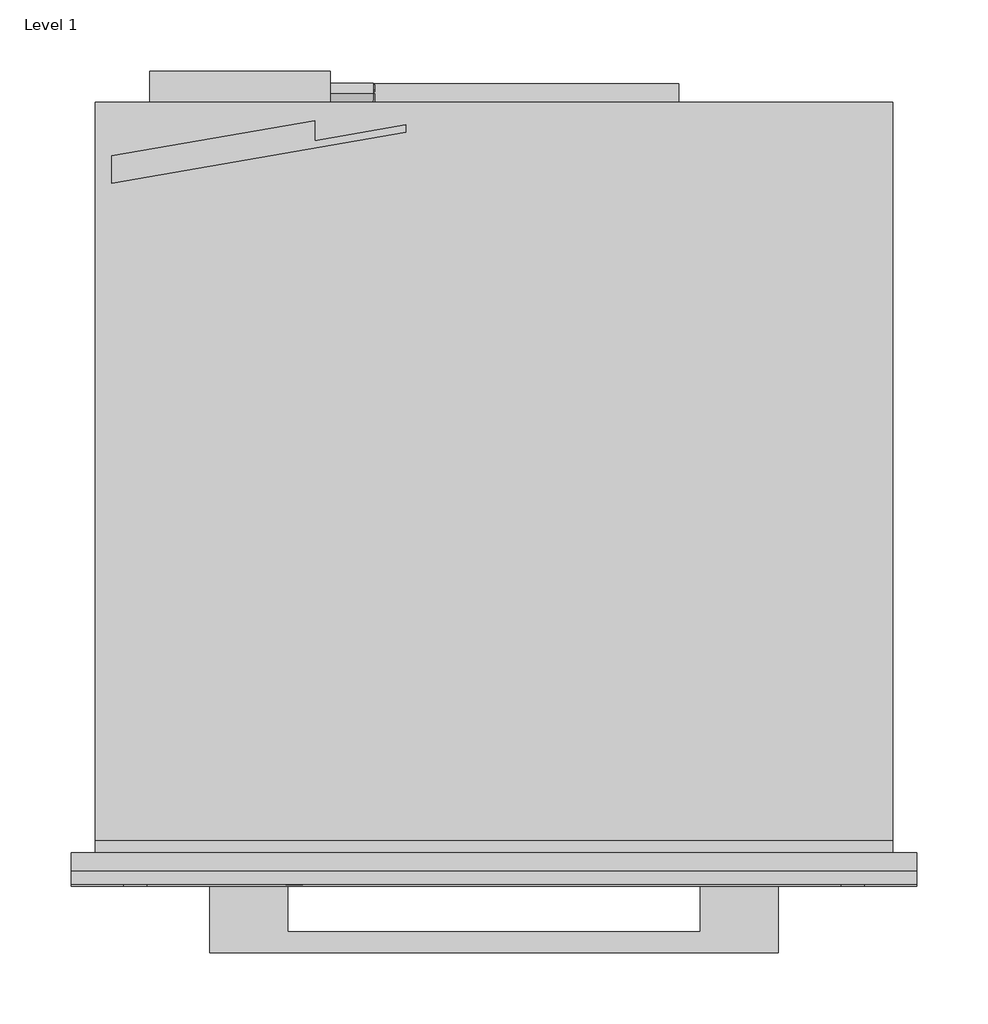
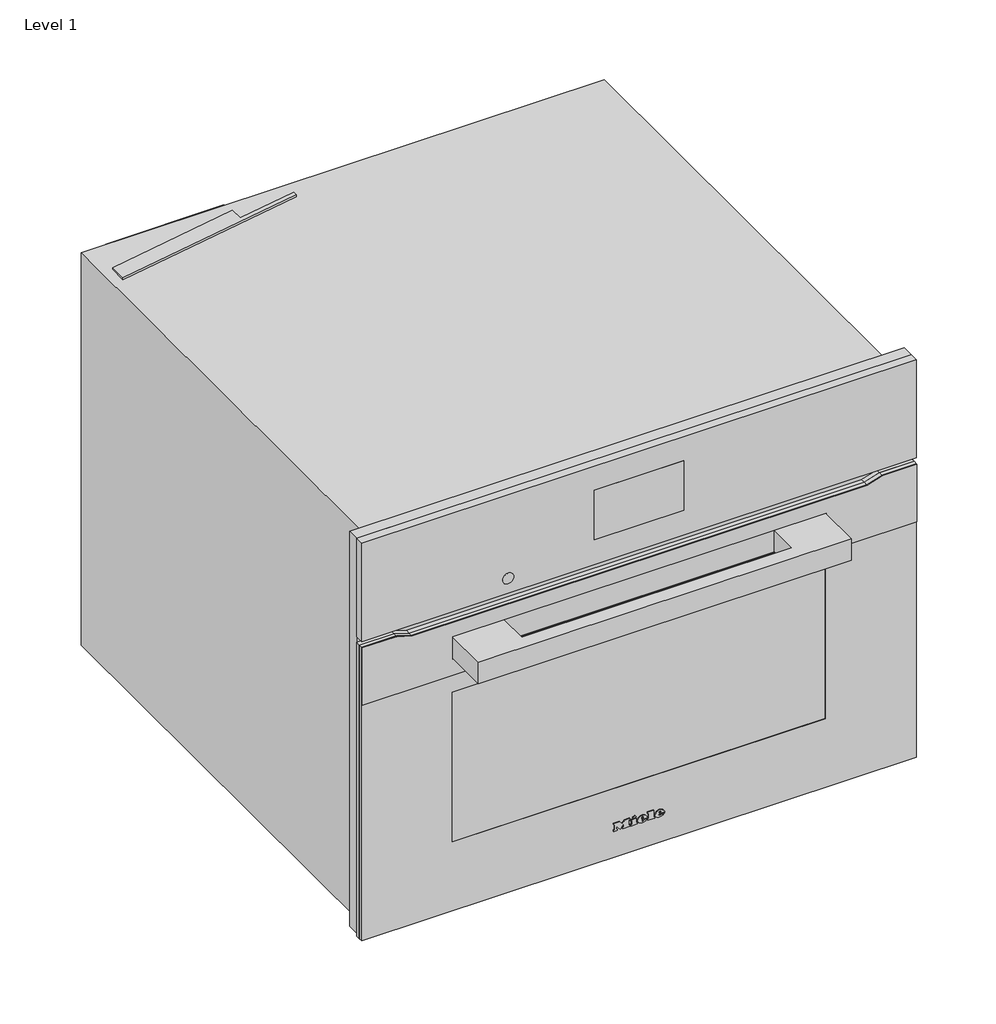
# One storey: 1 proxy.
"""IFC4 building model written with IfcOpenShell, lengths in millimetres."""

import ifcopenshell
import ifcopenshell.guid

model = None  # the IFC model being written
_history = None  # IfcOwnerHistory: only IFC2X3 demands one
_inside = {}  # id of a spatial element -> (the spatial element, [elements in it])
_under = {}  # id of a project, library or spatial element -> (it, [spatial elements below it])
_declared = {}  # id of a project -> (the project, [libraries it declares])
_typed = {}  # id of a type object -> (the type object, [elements of that type])
_made_of = {}  # id of a material, layer set ... -> (it, [elements and type objects made of it])


def new_model(schema):
    """Start an empty IFC model of exactly this schema.

    Asked for "IFC4X3", IfcOpenShell would pick the latest addendum, in which some entities
    have other attributes; the version numbers below select the first issue.
    IFC2X3 requires an IfcOwnerHistory on every rooted entity: one is made here for all.
    """
    global model, _history
    if schema == "IFC4X3":
        model = ifcopenshell.file(schema_version=(4, 3, 0, 0))
    else:
        model = ifcopenshell.file(schema=schema)
    _inside.clear()
    _under.clear()
    _declared.clear()
    _typed.clear()
    _made_of.clear()
    _history = None
    if model.schema == "IFC2X3":
        org = make("IfcOrganization", Name="unknown")
        user = make(
            "IfcPersonAndOrganization",
            ThePerson=make("IfcPerson", FamilyName="unknown"),
            TheOrganization=org,
        )
        app = make(
            "IfcApplication",
            ApplicationDeveloper=org,
            Version="unknown",
            ApplicationFullName="unknown",
            ApplicationIdentifier="unknown",
        )
        _history = make(
            "IfcOwnerHistory",
            OwningUser=user,
            OwningApplication=app,
            ChangeAction="ADDED",
            CreationDate=0,
        )
    return model


def make(cls, **values):
    """One entity of the class cls with the attributes given. An attribute that is None is left unset."""
    return model.create_entity(
        cls, **{name: value for name, value in values.items() if value is not None}
    )


def rooted(cls, **values):
    """An entity with a GlobalId (a new one), such as an element, a storey or a relation."""
    return make(cls, GlobalId=ifcopenshell.guid.new(), OwnerHistory=_history, **values)


def si_unit(unit_type, name, prefix=None):
    """IfcSIUnit, for example si_unit("LENGTHUNIT", "METRE", prefix="MILLI")."""
    return make("IfcSIUnit", UnitType=unit_type, Prefix=prefix, Name=name)


def assignment(units):
    """IfcUnitAssignment: the units of a project."""
    return None if units is None else make("IfcUnitAssignment", Units=units)


def point(xyz):
    """IfcCartesianPoint."""
    return None if xyz is None else make("IfcCartesianPoint", Coordinates=xyz)


def direction(xyz):
    """IfcDirection."""
    return None if xyz is None else make("IfcDirection", DirectionRatios=xyz)


def frame(location, z_axis=None, x_axis=None):
    """IfcAxis2Placement3D, a coordinate frame: its origin and axes. An axis left out is left unset."""
    return make(
        "IfcAxis2Placement3D",
        Location=point(location),
        Axis=direction(z_axis),
        RefDirection=direction(x_axis),
    )


def frame_2d(location, x_axis=None):
    """IfcAxis2Placement2D, a coordinate frame in the plane: its origin and x axis."""
    return make(
        "IfcAxis2Placement2D", Location=point(location), RefDirection=direction(x_axis)
    )


def origin():
    """The frame at (0, 0, 0) with its axes left unset."""
    return frame((0.0, 0.0, 0.0))


def place(relative_to, where):
    """IfcLocalPlacement: puts the frame where relative to a parent placement (None: the world)."""
    return make(
        "IfcLocalPlacement", PlacementRelTo=relative_to, RelativePlacement=where
    )


def context(
    kind, dimensions, precision=None, world=None, true_north=None, identifier=None
):
    """IfcGeometricRepresentationContext, for example the 3D "Model" context."""
    return make(
        "IfcGeometricRepresentationContext",
        ContextIdentifier=identifier,
        ContextType=kind,
        CoordinateSpaceDimension=dimensions,
        Precision=precision,
        WorldCoordinateSystem=world,
        TrueNorth=true_north,
    )


def project(units=None, contexts=None):
    """IfcProject with its units and contexts."""
    return rooted(
        "IfcProject",
        Name="project",
        RepresentationContexts=contexts,
        UnitsInContext=assignment(units),
    )


def spatial(cls, under=None, at=None, **own):
    """A site, building, storey or space (cls), placed at a placement, below another one or the project."""
    s = rooted(cls, ObjectPlacement=at, **own)
    if under is not None:
        _under.setdefault(under.id(), (under, []))[1].append(s)
    return s


def polyline(points):
    """IfcPolyline through the points."""
    return make("IfcPolyline", Points=[point(p) for p in points])


def circle_curve(where, radius):
    """IfcCircle in the frame where."""
    return make("IfcCircle", Position=where, Radius=radius)


def ellipse_curve(where, semi_axis1, semi_axis2):
    """IfcEllipse in the frame where."""
    return make(
        "IfcEllipse", Position=where, SemiAxis1=semi_axis1, SemiAxis2=semi_axis2
    )


def trimmed(basis, trim1, trim2, sense, master):
    """IfcTrimmedCurve: the piece of a basis curve between two trims."""
    return make(
        "IfcTrimmedCurve",
        BasisCurve=basis,
        Trim1=trim1,
        Trim2=trim2,
        SenseAgreement=sense,
        MasterRepresentation=master,
    )


def segment(curve, same_sense, transition):
    """IfcCompositeCurveSegment."""
    return make(
        "IfcCompositeCurveSegment",
        Transition=transition,
        SameSense=same_sense,
        ParentCurve=curve,
    )


def composite_curve(segments, self_intersect=None):
    """IfcCompositeCurve: segments joined end to end."""
    return make("IfcCompositeCurve", Segments=segments, SelfIntersect=self_intersect)


def outline(outer, holes=None, kind="AREA"):
    """IfcArbitraryClosedProfileDef: a profile drawn as a closed curve; with holes, ...WithVoids."""
    if holes is None:
        return make("IfcArbitraryClosedProfileDef", ProfileType=kind, OuterCurve=outer)
    return make(
        "IfcArbitraryProfileDefWithVoids",
        ProfileType=kind,
        OuterCurve=outer,
        InnerCurves=holes,
    )


def extrude(swept, where, along, depth):
    """IfcExtrudedAreaSolid: the profile swept, set in the frame where, extruded along a direction by depth."""
    return make(
        "IfcExtrudedAreaSolid",
        SweptArea=swept,
        Position=where,
        ExtrudedDirection=direction(along),
        Depth=depth,
    )


def faces_of(points, faces, orient=None, outer=None):
    """IfcFace entities. A face is a list of loops; a loop is a list of indices into points, from 0.

    orient and outer hold one flag for each loop. By default every Orientation is true, the
    first loop of a face is its IfcFaceOuterBound and the others are IfcFaceBound.
    """
    made = []
    for i, loops in enumerate(faces):
        bounds = []
        for j, loop in enumerate(loops):
            is_outer = j == 0 if outer is None else outer[i][j]
            bounds.append(
                make(
                    "IfcFaceOuterBound" if is_outer else "IfcFaceBound",
                    Bound=make("IfcPolyLoop", Polygon=[points[k] for k in loop]),
                    Orientation=True if orient is None else orient[i][j],
                )
            )
        made.append(make("IfcFace", Bounds=bounds))
    return made


def faceted_brep(points, faces, orient=None, outer=None, voids=None):
    """IfcFacetedBrep: a solid bounded by flat faces; with voids (closed shells), ...WithVoids."""
    shared = [point(p) for p in points]
    hull = make("IfcClosedShell", CfsFaces=faces_of(shared, faces, orient, outer))
    if voids is None:
        return make("IfcFacetedBrep", Outer=hull)
    return make(
        "IfcFacetedBrepWithVoids",
        Outer=hull,
        Voids=[
            make(cls, CfsFaces=faces_of(shared, fs, o, b)) for cls, fs, o, b in voids
        ],
    )


def shape(context_of_items, identifier, shape_type, items):
    """IfcShapeRepresentation: the items that make up one representation, for example the "Body"."""
    return make(
        "IfcShapeRepresentation",
        ContextOfItems=context_of_items,
        RepresentationIdentifier=identifier,
        RepresentationType=shape_type,
        Items=items,
    )


def source(mapping_origin, context_of_items, identifier, shape_type, items):
    """IfcRepresentationMap: a shape defined once, which mapped items show again and again."""
    return make(
        "IfcRepresentationMap",
        MappingOrigin=mapping_origin,
        MappedRepresentation=shape(context_of_items, identifier, shape_type, items),
    )


def transform(
    local_origin,
    x_axis=None,
    y_axis=None,
    z_axis=None,
    scale=None,
    scale2=None,
    scale3=None,
    uniform=True,
):
    """IfcCartesianTransformationOperator3D, or its non-uniform kind. x_axis, y_axis, z_axis: its Axis1, 2, 3."""
    if uniform:
        return make(
            "IfcCartesianTransformationOperator3D",
            Axis1=direction(x_axis),
            Axis2=direction(y_axis),
            LocalOrigin=point(local_origin),
            Scale=scale,
            Axis3=direction(z_axis),
        )
    return make(
        "IfcCartesianTransformationOperator3DnonUniform",
        Axis1=direction(x_axis),
        Axis2=direction(y_axis),
        LocalOrigin=point(local_origin),
        Scale=scale,
        Axis3=direction(z_axis),
        Scale2=scale2,
        Scale3=scale3,
    )


def mapped(mapping_source, mapping_target):
    """IfcMappedItem: shows the shape of a source again, moved by a transform."""
    return make(
        "IfcMappedItem", MappingSource=mapping_source, MappingTarget=mapping_target
    )


def made_of(thing, what):
    """Note that an element or type object is made of a material, layer set ...; save() writes the relation."""
    if what is not None:
        _made_of.setdefault(what.id(), (what, []))[1].append(thing)
    return thing


def element(
    cls,
    number,
    at=None,
    inside=None,
    cuts=None,
    type_object=None,
    material=None,
    context=None,
    identifier="Body",
    shape_type=None,
    held_by="IfcProductDefinitionShape",
    body=None,
    shapes=None,
    **own,
):
    """One element of the class cls, such as IfcWall. Its Tag is "e" and its number.

    at: its placement. inside: the storey or other place that contains it. cuts: it is an
    opening in that element (IfcRelVoidsElement). A single representation is given by context,
    identifier, shape_type and body (its items); several are given by shapes. held_by: the class
    of the entity that holds the representations. save() writes the other relations.
    """
    e = rooted(cls, Tag="e%d" % number, ObjectPlacement=at, **own)
    if body is not None:
        shapes = [shape(context, identifier, shape_type, body)]
    if shapes is not None:
        e.Representation = make(held_by, Representations=shapes)
    if inside is not None:
        _inside.setdefault(inside.id(), (inside, []))[1].append(e)
    if cuts is not None:
        rooted(
            "IfcRelVoidsElement", RelatingBuildingElement=cuts, RelatedOpeningElement=e
        )
    if type_object is not None:
        _typed.setdefault(type_object.id(), (type_object, []))[1].append(e)
    return made_of(e, material)


def aggregate(whole, parts):
    """IfcRelAggregates: a whole, such as a stair, and the parts it consists of."""
    return rooted("IfcRelAggregates", RelatingObject=whole, RelatedObjects=parts)


def save(model, path):
    """Write the relations noted so far, then the file.

    IfcRelAggregates (storeys below a building ...), IfcRelContainedInSpatialStructure (elements
    in a storey), IfcRelDefinesByType, IfcRelAssociatesMaterial and IfcRelDeclares: one each for
    every whole, place, type object, material and project.
    """
    for whole, parts in _under.values():
        aggregate(whole, parts)
    for where, things in _inside.values():
        rooted(
            "IfcRelContainedInSpatialStructure",
            RelatedElements=things,
            RelatingStructure=where,
        )
    for kind, things in _typed.values():
        rooted("IfcRelDefinesByType", RelatedObjects=things, RelatingType=kind)
    for what, things in _made_of.values():
        rooted("IfcRelAssociatesMaterial", RelatedObjects=things, RelatingMaterial=what)
    for by, libraries in _declared.values():
        rooted("IfcRelDeclares", RelatingContext=by, RelatedDefinitions=libraries)
    model.write(path)


def plane_surface(at):
    """IfcPlane: the flat surface through the origin of the frame at, square to its z axis."""
    return make("IfcPlane", Position=at)


def cylinder_surface(at, radius):
    """IfcCylindricalSurface: all points at the distance radius from the z axis of the frame at."""
    return make("IfcCylindricalSurface", Position=at, Radius=radius)


def revolved_surface(curve, axis_point, axis_direction):
    """IfcSurfaceOfRevolution: the curve turned about the line through axis_point along axis_direction."""
    return make(
        "IfcSurfaceOfRevolution",
        SweptCurve=make("IfcArbitraryOpenProfileDef", ProfileType="CURVE", Curve=curve),
        AxisPosition=make("IfcAxis1Placement", Location=point(axis_point), Axis=direction(axis_direction)),
    )


def extruded_surface(curve, direction_of_extrusion, depth):
    """IfcSurfaceOfLinearExtrusion: the curve pushed along a direction by depth."""
    return make(
        "IfcSurfaceOfLinearExtrusion",
        SweptCurve=make("IfcArbitraryOpenProfileDef", ProfileType="CURVE", Curve=curve),
        ExtrudedDirection=direction(direction_of_extrusion),
        Depth=depth,
    )


def advanced_brep(points, edges, surfaces, faces):
    """IfcAdvancedBrep: a solid bounded by faces that lie on surfaces and meet in shared edges.

    An edge is (start, end): straight between two places in points (the first is 0);
    or (start, end, curve); or (start, end, curve, False) where it runs against its curve.
    A face is (place in surfaces, loops), or (place, loops, False) where it looks against
    its surface's normal. A loop lists edges by number (the first is 1), with a minus sign
    where the edge is run from its end to its start. The first loop is the outer one.
    """
    corners = [point(p) for p in points]
    vertices = [make("IfcVertexPoint", VertexGeometry=c) for c in corners]
    made = []
    for start, end, *more in edges:
        made.append(
            make(
                "IfcEdgeCurve",
                EdgeStart=vertices[start],
                EdgeEnd=vertices[end],
                EdgeGeometry=more[0] if more else make("IfcPolyline", Points=[corners[start], corners[end]]),
                SameSense=more[1] if len(more) > 1 else True,
            )
        )
    hull = []
    for where, loops, *sense in faces:
        bounds = []
        for j, loop in enumerate(loops):
            ring = [make("IfcOrientedEdge", EdgeElement=made[abs(k) - 1], Orientation=k > 0) for k in loop]
            bounds.append(
                make(
                    "IfcFaceOuterBound" if j == 0 else "IfcFaceBound",
                    Bound=make("IfcEdgeLoop", EdgeList=ring),
                    Orientation=True,
                )
            )
        hull.append(make("IfcAdvancedFace", Bounds=bounds, FaceSurface=surfaces[where], SameSense=sense[0] if sense else True))
    return make("IfcAdvancedBrep", Outer=make("IfcClosedShell", CfsFaces=hull))


def specialty_equipment_f8c42bbf(model_context):
    return source(origin(), model_context, "Body", "SolidModel", [
        advanced_brep(
        [(21.28, -23.0, 36.133), (21.28, -23.0, 37.042), (27.301, -23.0, 37.042), (16.825, -23.0, 37.042), (19.3, -23.0, 34.0), (27.148, -23.0, 36.133), (24.43, -23.0, 36.133), (22.288, -23.0, 35.125), (21.28, -23.0, 38.194), (21.28, -23.0, 39.175), (22.819, -23.0, 39.175), (22.819, -23.0, 38.194), (21.28, -22.0, 36.133), (22.288, -22.0, 35.125), (24.43, -22.0, 36.133), (27.148, -22.0, 36.133), (19.3, -22.0, 34.0), (16.825, -22.0, 37.042), (27.301, -22.0, 37.042), (21.28, -22.0, 37.042), (21.28, -22.0, 38.194), (22.819, -22.0, 38.194), (22.819, -22.0, 39.175), (21.28, -22.0, 39.175)],
        [
            (0, 1),
            (1, 2),
            (2, 3, ellipse_curve(frame((22.063, -23.0, 37.042), z_axis=(0.0, -1.0, 0.0), x_axis=(-1.0, 0.0, 0.0)), 5.238, 4.329)),
            (3, 4, circle_curve(frame((20.3080491, -23.0, 37.348), z_axis=(0.0, -1.0, 0.0), x_axis=(0.0, 0.0, -1.0)), 3.4964649)),
            (4, 5, circle_curve(frame((21.9581428, -23.0, 39.724), z_axis=(0.0, -1.0, 0.0), x_axis=(0.0, 0.0, -1.0)), 6.3110933)),
            (5, 6),
            (6, 7, circle_curve(frame((22.7279412, -23.0, 36.97), z_axis=(0.0, 1.0, 0.0), x_axis=(0.0, 0.0, -1.0)), 1.896727)),
            (7, 0, circle_curve(frame((22.288, -23.0, 36.133), z_axis=(0.0, 1.0, 0.0), x_axis=(0.0, 0.0, -1.0)), 1.008)),
            (8, 9),
            (9, 10, circle_curve(frame((22.0495, -23.0, 39.175), z_axis=(0.0, 1.0, 0.0), x_axis=(0.0, 0.0, -1.0)), 0.7695)),
            (10, 11),
            (11, 8),
            (12, 13, circle_curve(frame((22.288, -22.0, 36.133), z_axis=(0.0, -1.0, 0.0), x_axis=(0.0, 0.0, -1.0)), 1.008)),
            (13, 14, circle_curve(frame((22.7279412, -22.0, 36.97), z_axis=(0.0, -1.0, 0.0), x_axis=(0.0, 0.0, -1.0)), 1.896727)),
            (14, 15),
            (15, 16, circle_curve(frame((21.9581428, -22.0, 39.724), z_axis=(0.0, 1.0, 0.0), x_axis=(0.0, 0.0, -1.0)), 6.3110933)),
            (16, 17, circle_curve(frame((20.3080491, -22.0, 37.348), z_axis=(0.0, 1.0, 0.0), x_axis=(0.0, 0.0, -1.0)), 3.4964649)),
            (17, 18, ellipse_curve(frame((22.063, -22.0, 37.042), z_axis=(0.0, 1.0, 0.0), x_axis=(-1.0, 0.0, 0.0)), 5.238, 4.329)),
            (18, 19),
            (19, 12),
            (20, 21),
            (21, 22),
            (22, 23, circle_curve(frame((22.0495, -22.0, 39.175), z_axis=(0.0, -1.0, 0.0), x_axis=(0.0, 0.0, -1.0)), 0.7695)),
            (23, 20),
            (0, 12),
            (19, 1),
            (18, 2),
            (5, 15),
            (14, 6),
            (17, 3),
            (13, 7),
            (16, 4),
            (8, 20),
            (23, 9),
            (22, 10),
            (21, 11),
        ],
        [
            plane_surface(frame((21.28, -23.0, 37.042), z_axis=(0.0, -1.0, 0.0), x_axis=(0.0, 0.0, 1.0))),
            plane_surface(frame((21.28, -22.0, 37.042), z_axis=(0.0, 1.0, 0.0), x_axis=(0.0, 0.0, -1.0))),
            plane_surface(frame((21.28, -23.0, 36.133), z_axis=(1.0, 0.0, 0.0), x_axis=(0.0, 1.0, 0.0))),
            plane_surface(frame((21.28, -23.0, 37.042), z_axis=(0.0, 0.0, -1.0), x_axis=(0.0, 1.0, 0.0))),
            plane_surface(frame((27.148, -23.0, 36.133), z_axis=(0.0, 0.0, 1.0), x_axis=(0.0, 1.0, 0.0))),
            extruded_surface(trimmed(ellipse_curve(frame((22.063, -21.0, 37.042), z_axis=(0.0, -1.0, 0.0), x_axis=(-1.0, 0.0, 0.0)), 5.238, 4.329), [point((27.301, -21.0, 37.042))], [point((16.825, -21.0, 37.042))], True, "CARTESIAN"), (0.0, -1.0, 0.0), 1.0),
            revolved_surface(polyline([(22.7279412, -22.0, 35.073273), (22.7279412, -23.0, 35.073273)]), (22.7279412, -22.0, 36.97), (0.0, 1.0, 0.0)),
            revolved_surface(polyline([(22.288, -22.0, 35.125), (22.288, -23.0, 35.125)]), (22.288, -22.0, 36.133), (0.0, 1.0, 0.0)),
            cylinder_surface(frame((20.3080491, -22.0, 37.348), z_axis=(0.0, -1.0, 0.0), x_axis=(0.0, 0.0, -1.0)), 3.4964649),
            cylinder_surface(frame((21.9581428, -22.0, 39.724), z_axis=(0.0, -1.0, 0.0), x_axis=(0.0, 0.0, -1.0)), 6.3110933),
            plane_surface(frame((21.28, -23.0, 38.194), z_axis=(1.0, 0.0, 0.0), x_axis=(0.0, 1.0, 0.0))),
            revolved_surface(polyline([(22.0495, -22.0, 38.405499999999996), (22.0495, -23.0, 38.405499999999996)]), (22.0495, -22.0, 39.175), (0.0, 1.0, 0.0)),
            plane_surface(frame((22.819, -23.0, 39.175), z_axis=(-1.0, 0.0, 0.0), x_axis=(0.0, 1.0, 0.0))),
            plane_surface(frame((22.819, -23.0, 38.194), z_axis=(0.0, 0.0, 1.0), x_axis=(0.0, 1.0, 0.0))),
        ],
        [
            (0, [[1, 2, 3, 4, 5, 6, 7, 8], [9, 10, 11, 12]]),
            (1, [[13, 14, 15, 16, 17, 18, 19, 20], [21, 22, 23, 24]]),
            (2, [[-1, 25, -20, 26]]),
            (3, [[-2, -26, -19, 27]]),
            (4, [[-6, 28, -15, 29]]),
            (5, [[-3, -27, -18, 30]]),
            (6, [[-7, -29, -14, 31]]),
            (7, [[-8, -31, -13, -25]]),
            (8, [[-4, -30, -17, 32]]),
            (9, [[-5, -32, -16, -28]]),
            (10, [[-9, 33, -24, 34]]),
            (11, [[-10, -34, -23, 35]]),
            (12, [[-11, -35, -22, 36]]),
            (13, [[-12, -36, -21, -33]]),
        ],
    ),
        advanced_brep(
        [(2.497, -23.0, 36.133), (2.497, -23.0, 37.042), (8.518, -23.0, 37.042), (-1.958, -23.0, 37.042), (0.517, -23.0, 34.0), (8.365, -23.0, 36.133), (5.647, -23.0, 36.133), (3.505, -23.0, 35.125), (2.497, -23.0, 38.194), (2.497, -23.0, 39.175), (4.036, -23.0, 39.175), (4.036, -23.0, 38.194), (2.497, -22.0, 36.133), (3.505, -22.0, 35.125), (5.647, -22.0, 36.133), (8.365, -22.0, 36.133), (0.517, -22.0, 34.0), (-1.958, -22.0, 37.042), (8.518, -22.0, 37.042), (2.497, -22.0, 37.042), (2.497, -22.0, 38.194), (4.036, -22.0, 38.194), (4.036, -22.0, 39.175), (2.497, -22.0, 39.175)],
        [
            (0, 1),
            (1, 2),
            (2, 3, ellipse_curve(frame((3.28, -23.0, 37.042), z_axis=(0.0, -1.0, 0.0), x_axis=(-1.0, 0.0, 0.0)), 5.238, 4.329)),
            (3, 4, circle_curve(frame((1.5250491, -23.0, 37.348), z_axis=(0.0, -1.0, 0.0), x_axis=(0.0, 0.0, -1.0)), 3.4964649)),
            (4, 5, circle_curve(frame((3.1751428, -23.0, 39.724), z_axis=(0.0, -1.0, 0.0), x_axis=(0.0, 0.0, -1.0)), 6.3110933)),
            (5, 6),
            (6, 7, circle_curve(frame((3.9449412, -23.0, 36.97), z_axis=(0.0, 1.0, 0.0), x_axis=(0.0, 0.0, -1.0)), 1.896727)),
            (7, 0, circle_curve(frame((3.505, -23.0, 36.133), z_axis=(0.0, 1.0, 0.0), x_axis=(0.0, 0.0, -1.0)), 1.008)),
            (8, 9),
            (9, 10, circle_curve(frame((3.2665, -23.0, 39.175), z_axis=(0.0, 1.0, 0.0), x_axis=(0.0, 0.0, -1.0)), 0.7695)),
            (10, 11),
            (11, 8),
            (12, 13, circle_curve(frame((3.505, -22.0, 36.133), z_axis=(0.0, -1.0, 0.0), x_axis=(0.0, 0.0, -1.0)), 1.008)),
            (13, 14, circle_curve(frame((3.9449412, -22.0, 36.97), z_axis=(0.0, -1.0, 0.0), x_axis=(0.0, 0.0, -1.0)), 1.896727)),
            (14, 15),
            (15, 16, circle_curve(frame((3.1751428, -22.0, 39.724), z_axis=(0.0, 1.0, 0.0), x_axis=(0.0, 0.0, -1.0)), 6.3110933)),
            (16, 17, circle_curve(frame((1.5250491, -22.0, 37.348), z_axis=(0.0, 1.0, 0.0), x_axis=(0.0, 0.0, -1.0)), 3.4964649)),
            (17, 18, ellipse_curve(frame((3.28, -22.0, 37.042), z_axis=(0.0, 1.0, 0.0), x_axis=(-1.0, 0.0, 0.0)), 5.238, 4.329)),
            (18, 19),
            (19, 12),
            (20, 21),
            (21, 22),
            (22, 23, circle_curve(frame((3.2665, -22.0, 39.175), z_axis=(0.0, -1.0, 0.0), x_axis=(0.0, 0.0, -1.0)), 0.7695)),
            (23, 20),
            (0, 12),
            (19, 1),
            (18, 2),
            (5, 15),
            (14, 6),
            (17, 3),
            (13, 7),
            (16, 4),
            (8, 20),
            (23, 9),
            (22, 10),
            (21, 11),
        ],
        [
            plane_surface(frame((2.497, -23.0, 37.042), z_axis=(0.0, -1.0, 0.0), x_axis=(0.0, 0.0, 1.0))),
            plane_surface(frame((2.497, -22.0, 37.042), z_axis=(0.0, 1.0, 0.0), x_axis=(0.0, 0.0, -1.0))),
            plane_surface(frame((2.497, -23.0, 36.133), z_axis=(1.0, 0.0, 0.0), x_axis=(0.0, 1.0, 0.0))),
            plane_surface(frame((2.497, -23.0, 37.042), z_axis=(0.0, 0.0, -1.0), x_axis=(0.0, 1.0, 0.0))),
            plane_surface(frame((8.365, -23.0, 36.133), z_axis=(0.0, 0.0, 1.0), x_axis=(0.0, 1.0, 0.0))),
            extruded_surface(trimmed(ellipse_curve(frame((3.28, -21.0, 37.042), z_axis=(0.0, -1.0, 0.0), x_axis=(-1.0, 0.0, 0.0)), 5.238, 4.329), [point((8.518, -21.0, 37.042))], [point((-1.958, -21.0, 37.042))], True, "CARTESIAN"), (0.0, -1.0, 0.0), 1.0),
            revolved_surface(polyline([(3.9449412, -22.0, 35.073273), (3.9449412, -23.0, 35.073273)]), (3.9449412, -22.0, 36.97), (0.0, 1.0, 0.0)),
            revolved_surface(polyline([(3.505, -22.0, 35.125), (3.505, -23.0, 35.125)]), (3.505, -22.0, 36.133), (0.0, 1.0, 0.0)),
            cylinder_surface(frame((1.5250491, -22.0, 37.348), z_axis=(0.0, -1.0, 0.0), x_axis=(0.0, 0.0, -1.0)), 3.4964649),
            cylinder_surface(frame((3.1751428, -22.0, 39.724), z_axis=(0.0, -1.0, 0.0), x_axis=(0.0, 0.0, -1.0)), 6.3110933),
            plane_surface(frame((2.497, -23.0, 38.194), z_axis=(1.0, 0.0, 0.0), x_axis=(0.0, 1.0, 0.0))),
            revolved_surface(polyline([(3.2665, -22.0, 38.405499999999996), (3.2665, -23.0, 38.405499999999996)]), (3.2665, -22.0, 39.175), (0.0, 1.0, 0.0)),
            plane_surface(frame((4.036, -23.0, 39.175), z_axis=(-1.0, 0.0, 0.0), x_axis=(0.0, 1.0, 0.0))),
            plane_surface(frame((4.036, -23.0, 38.194), z_axis=(0.0, 0.0, 1.0), x_axis=(0.0, 1.0, 0.0))),
        ],
        [
            (0, [[1, 2, 3, 4, 5, 6, 7, 8], [9, 10, 11, 12]]),
            (1, [[13, 14, 15, 16, 17, 18, 19, 20], [21, 22, 23, 24]]),
            (2, [[-1, 25, -20, 26]]),
            (3, [[-2, -26, -19, 27]]),
            (4, [[-6, 28, -15, 29]]),
            (5, [[-3, -27, -18, 30]]),
            (6, [[-7, -29, -14, 31]]),
            (7, [[-8, -31, -13, -25]]),
            (8, [[-4, -30, -17, 32]]),
            (9, [[-5, -32, -16, -28]]),
            (10, [[-9, 33, -24, 34]]),
            (11, [[-10, -34, -23, 35]]),
            (12, [[-11, -35, -22, 36]]),
            (13, [[-12, -36, -21, -33]]),
        ],
    ),
        extrude(outline(polyline([(42.469, -7.34), (41.011, -6.656), (42.433, -3.605), (43.891, -4.28), (42.469, -7.34)])), frame((0.0, -23.0, 0.0), z_axis=(0.0, 1.0, 0.0), x_axis=(0.0, 0.0, 1.0)), (0.0, 0.0, 1.0), 1.0),
        extrude(outline(polyline([(40.813, -9.563), (39.202, -9.563), (39.202, -8.492), (35.512, -8.492), (35.512, -9.563), (34.0, -9.563), (34.0, -2.462), (35.512, -2.462), (35.512, -3.506), (40.813, -3.506), (40.813, -9.563)])), frame((0.0, -23.0, 0.0), z_axis=(0.0, 1.0, 0.0), x_axis=(0.0, 0.0, 1.0)), (0.0, 0.0, 1.0), 1.0),
        extrude(outline(polyline([(41.533, 9.022), (41.533, 10.102), (35.512, 10.102), (35.512, 9.022), (34.0, 9.022), (34.0, 16.321), (35.512, 16.321), (35.512, 15.214), (43.0, 15.214), (43.0, 9.022), (41.533, 9.022)])), frame((0.0, -23.0, 0.0), z_axis=(0.0, 1.0, 0.0), x_axis=(0.0, 0.0, 1.0)), (0.0, 0.0, 1.0), 1.0),
        extrude(outline(polyline([(41.533, -27.5), (41.533, -26.411), (35.512, -26.411), (35.512, -27.5), (34.0, -27.5), (34.0, -23.54), (35.512, -23.54), (35.512, -24.62), (39.3341247, -24.62), (34.0, -20.597), (39.4402223, -16.556), (35.512, -16.556), (35.512, -17.663), (34.0, -17.663), (34.0, -10.481), (35.512, -10.481), (35.512, -11.624), (41.533, -11.624), (41.533, -10.481), (43.0, -10.481), (43.0, -15.962), (39.625, -18.59), (43.0, -21.227), (43.0, -27.5), (41.533, -27.5)])), frame((0.0, -23.0, 0.0), z_axis=(0.0, 1.0, 0.0), x_axis=(0.0, 0.0, 1.0)), (0.0, 0.0, 1.0), 1.0),
        extrude(outline(polyline([(-200.0, -70.3), (-200.0, -22.0), (-145.0, -22.0), (-145.0, -55.3), (145.0, -55.3), (145.0, -22.0), (200.0, -22.0), (200.0, -70.3), (-200.0, -70.3)])), frame((0.0, 0.0, 291.0), z_axis=(0.0, 0.0, 1.0), x_axis=(1.0, 0.0, 0.0)), (0.0, 0.0, 1.0), 24.0),
        extrude(outline(polyline([(337.0, -297.5), (4.0, -297.5), (4.0, 297.5), (337.0, 297.5), (337.0, 260.3542631), (332.0, 244.0), (332.0, -244.0), (337.0, -260.3542631), (337.0, -297.5)]), holes=[polyline([(252.0, 200.0), (82.0, 200.0), (82.0, -200.0), (252.0, -200.0), (252.0, 200.0)])]), frame((0.0, -22.0, 0.0), z_axis=(0.0, 1.0, 0.0), x_axis=(0.0, 0.0, 1.0)), (0.0, 0.0, 1.0), 4.0),
        extrude(outline(polyline([(337.0, -297.5), (272.0, -297.5), (272.0, 297.5), (337.0, 297.5), (337.0, 260.3542631), (332.0, 244.0), (332.0, -244.0), (337.0, -260.3542631), (337.0, -297.5)]), holes=[polyline([(315.5, -200.5), (315.5, 200.5), (290.5, 200.5), (290.5, -200.5), (315.5, -200.5)])]), frame((0.0, -23.3, 0.0), z_axis=(0.0, 1.0, 0.0), x_axis=(0.0, 0.0, 1.0)), (0.0, 0.0, 1.0), 1.3),
        extrude(outline(polyline([(337.0, -297.5), (4.0, -297.5), (4.0, 297.5), (337.0, 297.5), (337.0, 260.3542631), (332.0, 244.0), (332.0, -244.0), (337.0, -260.3542631), (337.0, -297.5)])), frame((0.0, -18.0, 0.0), z_axis=(0.0, 1.0, 0.0), x_axis=(0.0, 0.0, 1.0)), (0.0, 0.0, 1.0), 5.0),
        extrude(outline(polyline([(-200.0, -18.0), (200.0, -18.0), (200.0, -22.0), (-200.0, -22.0), (-200.0, -18.0)])), frame((0.0, 0.0, 82.0), z_axis=(0.0, 0.0, 1.0), x_axis=(1.0, 0.0, 0.0)), (0.0, 0.0, 1.0), 170.0),
        extrude(outline(polyline([(-48.0, -21.0), (48.0, -21.0), (48.0, -22.0), (-48.0, -22.0), (-48.0, -21.0)])), frame((0.0, 0.0, 371.5), z_axis=(0.0, 0.0, 1.0), x_axis=(1.0, 0.0, 0.0)), (0.0, 0.0, 1.0), 56.0),
        faceted_brep([(297.5, -22.0, 455.0), (-297.5, -22.0, 455.0), (-297.5, -22.0, 343.5), (297.5, -22.0, 343.5), (48.0, -22.0, 427.5), (48.0, -22.0, 371.5), (-48.0, -22.0, 371.5), (-48.0, -22.0, 427.5), (297.5, -13.0, 455.0), (297.5, -13.0, 343.5), (-297.5, -13.0, 343.5), (-297.5, -13.0, 455.0), (48.0, -21.0, 427.5), (-48.0, -21.0, 427.5), (-48.0, -21.0, 371.5), (48.0, -21.0, 371.5)], [[[0, 1, 2, 3], [4, 5, 6, 7]], [[8, 9, 10, 11]], [[1, 0, 8, 11]], [[2, 1, 11, 10]], [[3, 2, 10, 9]], [[0, 3, 9, 8]], [[12, 13, 14, 15]], [[12, 15, 5, 4]], [[15, 14, 6, 5]], [[14, 13, 7, 6]], [[13, 12, 4, 7]]]),
        extrude(outline(composite_curve([segment(trimmed(circle_curve(frame_2d((360.5, -140.5745637)), 6.0), [point((360.5, -146.5745637))], [point((360.5, -134.5745637))], False, "CARTESIAN"), True, "CONTINUOUS"), segment(trimmed(circle_curve(frame_2d((360.5, -140.5745637)), 6.0), [point((360.5, -134.5745637))], [point((360.5, -146.5745637))], False, "CARTESIAN"), True, "CONTINUOUS")], self_intersect=False)), frame((0.0, -22.5, 0.0), z_axis=(0.0, 1.0, 0.0), x_axis=(0.0, 0.0, 1.0)), (0.0, 0.0, 1.0), 1.0),
        extrude(outline(polyline([(-269.0, 490.2851942), (-126.0, 515.1547594), (-126.0, 500.9446163), (-62.0, 512.0750511), (-62.0, 507.0), (-269.0, 471.0), (-269.0, 490.2851942)])), frame((0.0, 0.0, 445.0), z_axis=(0.0, 0.0, 1.0), x_axis=(1.0, 0.0, 0.0)), (0.0, 0.0, 1.0), 2.0),
        extrude(outline(polyline([(528.134837, 358.3256163), (533.9911721, 358.3256163), (533.9911721, 357.3256163), (529.134837, 357.3256163), (529.134837, 353.8256163), (532.0849866, 353.8256163), (532.0849866, 352.8256163), (529.134837, 352.8256163), (529.134837, 349.3256163), (533.9911721, 349.3256163), (533.9911721, 348.3256163), (528.134837, 348.3256163), (528.134837, 358.3256163)])), frame((-85.0, 0.0, 0.0), z_axis=(1.0, 0.0, 0.0), x_axis=(0.0, 1.0, 0.0)), (0.0, 0.0, 1.0), 1.0),
        extrude(outline(polyline([(535.4911721, 348.3256163), (535.4911721, 358.3256163), (536.5959622, 358.3256163), (536.5959622, 349.3256163), (540.4911721, 349.3256163), (540.4911721, 348.3256163), (535.4911721, 348.3256163)])), frame((-85.0, 0.0, 0.0), z_axis=(1.0, 0.0, 0.0), x_axis=(0.0, 1.0, 0.0)), (0.0, 0.0, 1.0), 1.0),
        extrude(outline(composite_curve([segment(trimmed(circle_curve(frame_2d((534.0, 353.0)), 7.5), [point((534.0, 345.5))], [point((534.0, 360.5))], False, "CARTESIAN"), True, "CONTINUOUS"), segment(trimmed(circle_curve(frame_2d((534.0, 353.0)), 7.5), [point((534.0, 360.5))], [point((534.0, 345.5))], False, "CARTESIAN"), True, "CONTINUOUS")], self_intersect=False)), frame((-115.0, 0.0, 0.0), z_axis=(1.0, 0.0, 0.0), x_axis=(0.0, 1.0, 0.0)), (0.0, 0.0, 1.0), 30.0),
        extrude(outline(polyline([(-115.0, 528.0), (-242.0, 528.0), (-242.0, 550.0), (-115.0, 550.0), (-115.0, 528.0)])), frame((0.0, 0.0, 325.0), z_axis=(0.0, 0.0, 1.0), x_axis=(1.0, 0.0, 0.0)), (0.0, 0.0, 1.0), 103.0),
        faceted_brep([(272.5, 17.0, 344.0), (-272.5, 17.0, 344.0), (-272.5, 17.0, 7.0), (272.5, 17.0, 7.0), (-230.0, 17.0, 270.0), (230.0, 17.0, 270.0), (230.0, 17.0, 60.0), (-230.0, 17.0, 60.0), (272.5, 0.0, 344.0), (-272.5, 0.0, 344.0), (-272.5, 0.0, 7.0), (272.5, 0.0, 7.0), (280.5, 0.0, 0.0), (280.5, 528.0, 0.0), (280.5, 528.0, 445.0), (280.5, 9.0, 445.0), (280.5, 9.0, 440.0), (280.5, 0.0, 440.0), (-280.5, 9.0, 445.0), (-280.5, 528.0, 445.0), (-280.5, 528.0, 0.0), (-280.5, 0.0, 0.0), (-280.5, 0.0, 440.0), (-280.5, 9.0, 440.0), (230.0, 412.0, 270.0), (-230.0, 412.0, 270.0), (-230.0, 412.0, 60.0), (230.0, 412.0, 60.0)], [[[0, 1, 2, 3], [4, 5, 6, 7]], [[1, 0, 8, 9]], [[2, 1, 9, 10]], [[0, 3, 11, 8]], [[12, 13, 14, 15, 16, 17]], [[18, 19, 20, 21, 22, 23]], [[13, 12, 21, 20]], [[14, 13, 20, 19]], [[15, 14, 19, 18]], [[21, 12, 17, 22], [9, 8, 11, 10]], [[24, 25, 26, 27]], [[25, 24, 5, 4]], [[26, 25, 4, 7]], [[27, 26, 7, 6]], [[24, 27, 6, 5]], [[3, 2, 10, 11]], [[16, 23, 22, 17]], [[23, 16, 15, 18]]]),
        extrude(outline(polyline([(130.0, 528.0), (-130.0, 528.0), (-130.0, 541.0), (130.0, 541.0), (130.0, 528.0)])), frame((0.0, 0.0, 36.0), z_axis=(0.0, 0.0, 1.0), x_axis=(1.0, 0.0, 0.0)), (0.0, 0.0, 1.0), 260.0),
        extrude(outline(polyline([(7.0, 297.5), (455.0, 297.5), (455.0, -297.5), (7.0, -297.5), (7.0, -272.5), (344.0, -272.5), (344.0, 272.5), (7.0, 272.5), (7.0, 297.5)])), frame((0.0, -13.0, 0.0), z_axis=(0.0, 1.0, 0.0), x_axis=(0.0, 0.0, 1.0)), (0.0, 0.0, 1.0), 13.0),
    ])


model = new_model("IFC4")

# Units and contexts
model_context = context("Model", 3, world=origin())
ifc_project = project(units=[si_unit("LENGTHUNIT", "METRE", prefix="MILLI")], contexts=[model_context])

# Site, building, storey
site = spatial("IfcSite", under=ifc_project)
building = spatial("IfcBuilding", under=site)
storey = spatial("IfcBuildingStorey", under=building, Name="Level 1", Elevation=0.0)

# Proxy
placement = place(None, origin())
specialty_equipment_shape = specialty_equipment_f8c42bbf(model_context)
element("IfcBuildingElementProxy", 1, Name="11804600_USA_H7640BM_EDST-CLST : 22764046_USA_11804600_H7640BM_EDST-CLST", ObjectType="11804600_USA_H7640BM_EDST-CLST : 22764046_USA_11804600_H7640BM_EDST-CLST", at=placement, inside=storey, context=model_context, shape_type="MappedRepresentation", body=[
    mapped(specialty_equipment_shape, transform((0.0, 0.0, 0.0), x_axis=(1.0, 0.0, 0.0), y_axis=(0.0, 1.0, 0.0), z_axis=(0.0, 0.0, 1.0))),
])

save(model, "model.ifc")
